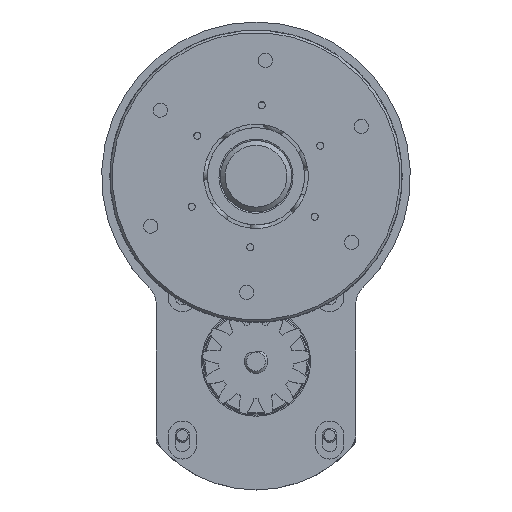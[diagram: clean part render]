
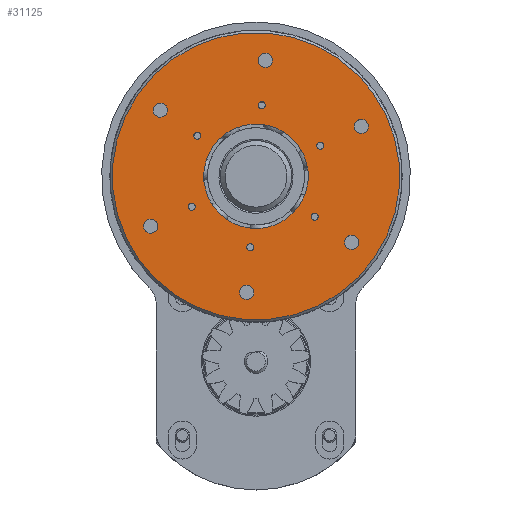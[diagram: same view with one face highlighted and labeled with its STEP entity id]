
A CAD part, top view. The second image highlights one B-rep face of the part: STEP entity #31125.
In plain terms, the highlighted planar face has unit normal (0, 0, 1).
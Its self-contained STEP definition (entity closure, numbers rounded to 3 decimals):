
#1061=FACE_BOUND('',#8930,.T.);
#1062=FACE_BOUND('',#8931,.T.);
#1063=FACE_BOUND('',#8932,.T.);
#1064=FACE_BOUND('',#8933,.T.);
#1065=FACE_BOUND('',#8934,.T.);
#1066=FACE_BOUND('',#8935,.T.);
#1067=FACE_BOUND('',#8936,.T.);
#1068=FACE_BOUND('',#8937,.T.);
#1069=FACE_BOUND('',#8938,.T.);
#1070=FACE_BOUND('',#8939,.T.);
#1071=FACE_BOUND('',#8940,.T.);
#1072=FACE_BOUND('',#8941,.T.);
#1073=FACE_BOUND('',#8942,.T.);
#3767=CIRCLE('',#36080,30.25);
#3769=CIRCLE('',#36083,1.5);
#3770=CIRCLE('',#36084,1.5);
#3771=CIRCLE('',#36085,1.5);
#3772=CIRCLE('',#36086,1.5);
#3773=CIRCLE('',#36087,1.5);
#3774=CIRCLE('',#36088,1.5);
#3775=CIRCLE('',#36089,11.);
#3776=CIRCLE('',#36090,0.75);
#3777=CIRCLE('',#36091,0.75);
#3778=CIRCLE('',#36092,0.75);
#3779=CIRCLE('',#36093,0.75);
#3780=CIRCLE('',#36094,0.75);
#3781=CIRCLE('',#36095,0.75);
#6862=FACE_OUTER_BOUND('',#8929,.T.);
#8929=EDGE_LOOP('',(#27904));
#8930=EDGE_LOOP('',(#27905));
#8931=EDGE_LOOP('',(#27906));
#8932=EDGE_LOOP('',(#27907));
#8933=EDGE_LOOP('',(#27908));
#8934=EDGE_LOOP('',(#27909));
#8935=EDGE_LOOP('',(#27910));
#8936=EDGE_LOOP('',(#27911));
#8937=EDGE_LOOP('',(#27912));
#8938=EDGE_LOOP('',(#27913));
#8939=EDGE_LOOP('',(#27914));
#8940=EDGE_LOOP('',(#27915));
#8941=EDGE_LOOP('',(#27916));
#8942=EDGE_LOOP('',(#27917));
#14562=VERTEX_POINT('',#63937);
#14564=VERTEX_POINT('',#63943);
#14565=VERTEX_POINT('',#63945);
#14566=VERTEX_POINT('',#63947);
#14567=VERTEX_POINT('',#63949);
#14568=VERTEX_POINT('',#63951);
#14569=VERTEX_POINT('',#63953);
#14570=VERTEX_POINT('',#63955);
#14571=VERTEX_POINT('',#63957);
#14572=VERTEX_POINT('',#63959);
#14573=VERTEX_POINT('',#63961);
#14574=VERTEX_POINT('',#63963);
#14575=VERTEX_POINT('',#63965);
#14576=VERTEX_POINT('',#63967);
#19065=EDGE_CURVE('',#14562,#14562,#3767,.T.);
#19068=EDGE_CURVE('',#14564,#14564,#3769,.T.);
#19069=EDGE_CURVE('',#14565,#14565,#3770,.T.);
#19070=EDGE_CURVE('',#14566,#14566,#3771,.T.);
#19071=EDGE_CURVE('',#14567,#14567,#3772,.T.);
#19072=EDGE_CURVE('',#14568,#14568,#3773,.T.);
#19073=EDGE_CURVE('',#14569,#14569,#3774,.T.);
#19074=EDGE_CURVE('',#14570,#14570,#3775,.T.);
#19075=EDGE_CURVE('',#14571,#14571,#3776,.T.);
#19076=EDGE_CURVE('',#14572,#14572,#3777,.T.);
#19077=EDGE_CURVE('',#14573,#14573,#3778,.T.);
#19078=EDGE_CURVE('',#14574,#14574,#3779,.T.);
#19079=EDGE_CURVE('',#14575,#14575,#3780,.T.);
#19080=EDGE_CURVE('',#14576,#14576,#3781,.T.);
#27904=ORIENTED_EDGE('',*,*,#19065,.F.);
#27905=ORIENTED_EDGE('',*,*,#19068,.T.);
#27906=ORIENTED_EDGE('',*,*,#19069,.T.);
#27907=ORIENTED_EDGE('',*,*,#19070,.T.);
#27908=ORIENTED_EDGE('',*,*,#19071,.T.);
#27909=ORIENTED_EDGE('',*,*,#19072,.T.);
#27910=ORIENTED_EDGE('',*,*,#19073,.T.);
#27911=ORIENTED_EDGE('',*,*,#19074,.T.);
#27912=ORIENTED_EDGE('',*,*,#19075,.T.);
#27913=ORIENTED_EDGE('',*,*,#19076,.T.);
#27914=ORIENTED_EDGE('',*,*,#19077,.T.);
#27915=ORIENTED_EDGE('',*,*,#19078,.T.);
#27916=ORIENTED_EDGE('',*,*,#19079,.T.);
#27917=ORIENTED_EDGE('',*,*,#19080,.T.);
#29175=PLANE('',#36082);
#31125=ADVANCED_FACE('',(#6862,#1061,#1062,#1063,#1064,#1065,#1066,#1067,
#1068,#1069,#1070,#1071,#1072,#1073),#29175,.T.);
#36080=AXIS2_PLACEMENT_3D('',#63938,#46770,#46771);
#36082=AXIS2_PLACEMENT_3D('',#63942,#46775,#46776);
#36083=AXIS2_PLACEMENT_3D('',#63944,#46777,#46778);
#36084=AXIS2_PLACEMENT_3D('',#63946,#46779,#46780);
#36085=AXIS2_PLACEMENT_3D('',#63948,#46781,#46782);
#36086=AXIS2_PLACEMENT_3D('',#63950,#46783,#46784);
#36087=AXIS2_PLACEMENT_3D('',#63952,#46785,#46786);
#36088=AXIS2_PLACEMENT_3D('',#63954,#46787,#46788);
#36089=AXIS2_PLACEMENT_3D('',#63956,#46789,#46790);
#36090=AXIS2_PLACEMENT_3D('',#63958,#46791,#46792);
#36091=AXIS2_PLACEMENT_3D('',#63960,#46793,#46794);
#36092=AXIS2_PLACEMENT_3D('',#63962,#46795,#46796);
#36093=AXIS2_PLACEMENT_3D('',#63964,#46797,#46798);
#36094=AXIS2_PLACEMENT_3D('',#63966,#46799,#46800);
#36095=AXIS2_PLACEMENT_3D('',#63968,#46801,#46802);
#46770=DIRECTION('center_axis',(0.,0.,-1.));
#46771=DIRECTION('ref_axis',(-1.,0.,0.));
#46775=DIRECTION('center_axis',(0.,0.,1.));
#46776=DIRECTION('ref_axis',(1.,0.,0.));
#46777=DIRECTION('center_axis',(0.,0.,-1.));
#46778=DIRECTION('ref_axis',(1.,0.,0.));
#46779=DIRECTION('center_axis',(0.,0.,-1.));
#46780=DIRECTION('ref_axis',(0.5,-0.866,0.));
#46781=DIRECTION('center_axis',(0.,0.,-1.));
#46782=DIRECTION('ref_axis',(-0.5,-0.866,0.));
#46783=DIRECTION('center_axis',(0.,0.,-1.));
#46784=DIRECTION('ref_axis',(-1.,0.,0.));
#46785=DIRECTION('center_axis',(0.,0.,-1.));
#46786=DIRECTION('ref_axis',(-0.5,0.866,0.));
#46787=DIRECTION('center_axis',(0.,0.,-1.));
#46788=DIRECTION('ref_axis',(0.5,0.866,0.));
#46789=DIRECTION('center_axis',(0.,0.,-1.));
#46790=DIRECTION('ref_axis',(1.,0.,0.));
#46791=DIRECTION('center_axis',(0.,0.,-1.));
#46792=DIRECTION('ref_axis',(-1.,0.,0.));
#46793=DIRECTION('center_axis',(0.,0.,-1.));
#46794=DIRECTION('ref_axis',(-0.5,0.866,0.));
#46795=DIRECTION('center_axis',(0.,0.,-1.));
#46796=DIRECTION('ref_axis',(0.5,0.866,0.));
#46797=DIRECTION('center_axis',(0.,0.,-1.));
#46798=DIRECTION('ref_axis',(1.,0.,0.));
#46799=DIRECTION('center_axis',(0.,0.,-1.));
#46800=DIRECTION('ref_axis',(0.5,-0.866,0.));
#46801=DIRECTION('center_axis',(0.,0.,-1.));
#46802=DIRECTION('ref_axis',(-0.5,-0.866,0.));
#63937=CARTESIAN_POINT('',(30.25,0.,15.));
#63938=CARTESIAN_POINT('Origin',(0.,0.,15.));
#63942=CARTESIAN_POINT('Origin',(0.,0.,15.));
#63943=CARTESIAN_POINT('',(-1.5,24.5,15.));
#63944=CARTESIAN_POINT('Origin',(0.,24.5,15.));
#63945=CARTESIAN_POINT('',(20.468,13.549,15.));
#63946=CARTESIAN_POINT('Origin',(21.218,12.25,15.));
#63947=CARTESIAN_POINT('',(21.968,-10.951,15.));
#63948=CARTESIAN_POINT('Origin',(21.218,-12.25,15.));
#63949=CARTESIAN_POINT('',(1.5,-24.5,15.));
#63950=CARTESIAN_POINT('Origin',(0.,-24.5,15.));
#63951=CARTESIAN_POINT('',(-20.468,-13.549,15.));
#63952=CARTESIAN_POINT('Origin',(-21.218,-12.25,15.));
#63953=CARTESIAN_POINT('',(-21.968,10.951,15.));
#63954=CARTESIAN_POINT('Origin',(-21.218,12.25,15.));
#63955=CARTESIAN_POINT('',(-11.,0.,15.));
#63956=CARTESIAN_POINT('Origin',(0.,0.,15.));
#63957=CARTESIAN_POINT('',(0.75,-15.,15.));
#63958=CARTESIAN_POINT('Origin',(0.,-15.,15.));
#63959=CARTESIAN_POINT('',(-12.615,-8.15,15.));
#63960=CARTESIAN_POINT('Origin',(-12.99,-7.5,15.));
#63961=CARTESIAN_POINT('',(-13.365,6.85,15.));
#63962=CARTESIAN_POINT('Origin',(-12.99,7.5,15.));
#63963=CARTESIAN_POINT('',(-0.75,15.,15.));
#63964=CARTESIAN_POINT('Origin',(0.,15.,15.));
#63965=CARTESIAN_POINT('',(12.615,8.15,15.));
#63966=CARTESIAN_POINT('Origin',(12.99,7.5,15.));
#63967=CARTESIAN_POINT('',(13.365,-6.85,15.));
#63968=CARTESIAN_POINT('Origin',(12.99,-7.5,15.));
